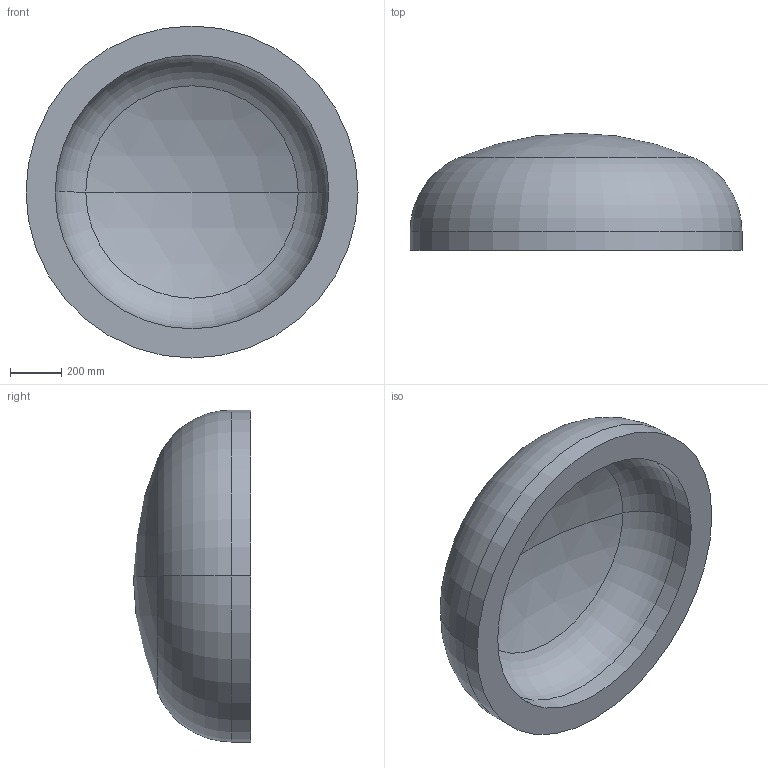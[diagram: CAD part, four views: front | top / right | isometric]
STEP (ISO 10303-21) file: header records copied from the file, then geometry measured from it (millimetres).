
FILE_DESCRIPTION (( 'STEP AP203' ), '1' );
FILE_NAME ('DIN 28013 Korbbogenform_-_Boden DIN 28013 - 1300 x 75 - I - s=114.step', '2016-07-01T10:04:00', ( '' ), ( '' ), 'SwSTEP 2.0', 'SolidWorks 2013', '' );
FILE_SCHEMA (( 'CONFIG_CONTROL_DESIGN' ));
Length unit declared in the file: millimetre
Products named in the file (1): DIN 28013 Korbbogenform_-_Boden DIN 28013 - 1300 x 75 - I - s=114
Bounding box: 1300 x 459.13 x 1300 mm (x, y, z)
Volume: 219659237 mm3; surface area: 4305644.7 mm2
Topology: 1 solids, 1 shells, 13 faces, 24 edges, 14 vertices
Faces by surface type: torus 4, cylinder 4, sphere 4, plane 1
Entity records: 407 total; most frequent: DIRECTION 72, CARTESIAN_POINT 52, ORIENTED_EDGE 48, AXIS2_PLACEMENT_3D 34, EDGE_CURVE 24, CIRCLE 20, VERTEX_POINT 14, EDGE_LOOP 14
